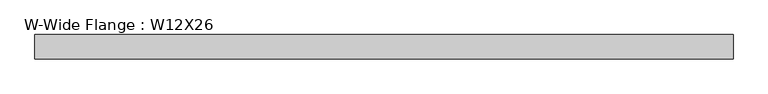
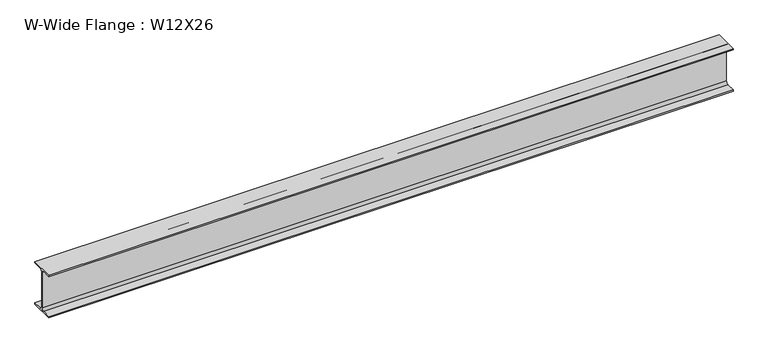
"""IFC4 building model written with IfcOpenShell, lengths in millimetres: beam geometry, W-Wide Flange : W12X26."""

from ifc_helpers import new_model, si_unit, point, frame, frame_2d, origin, place, context, project, spatial, polyline, circle_curve, trimmed, segment, composite_curve, outline, extrude, source, transform, mapped, element, save


def w_wide_flange_w12x26_78e0f775(model_context):
    return source(origin(), model_context, "Body", "SweptSolid", [
        extrude(outline(composite_curve([segment(polyline([(82.423, -145.288), (82.423, -154.94), (-82.423, -154.94), (-82.423, -145.288), (-20.2565, -145.288)]), True, "CONTINUOUS"), segment(trimmed(circle_curve(frame_2d((-20.2565, -127.9525)), 17.3355), [point((-20.2565, -145.288))], [point((-2.921, -127.9525))], True, "CARTESIAN"), True, "CONTINUOUS"), segment(polyline([(-2.921, -127.9525), (-2.921, 127.9525)]), True, "CONTINUOUS"), segment(trimmed(circle_curve(frame_2d((-20.2565, 127.9525)), 17.3355), [point((-2.921, 127.9525))], [point((-20.2565, 145.288))], True, "CARTESIAN"), True, "CONTINUOUS"), segment(polyline([(-20.2565, 145.288), (-82.423, 145.288), (-82.423, 154.94), (82.423, 154.94), (82.423, 145.288), (20.2565, 145.288)]), True, "CONTINUOUS"), segment(trimmed(circle_curve(frame_2d((20.2565, 127.9525)), 17.3355), [point((20.2565, 145.288))], [point((2.921, 127.9525))], True, "CARTESIAN"), True, "CONTINUOUS"), segment(polyline([(2.921, 127.9525), (2.921, -127.9525)]), True, "CONTINUOUS"), segment(trimmed(circle_curve(frame_2d((20.2565, -127.9525)), 17.3355), [point((2.921, -127.9525))], [point((20.2565, -145.288))], True, "CARTESIAN"), True, "CONTINUOUS"), segment(polyline([(20.2565, -145.288), (82.423, -145.288)]), True, "CONTINUOUS")], self_intersect=False)), frame((-2355.85, 0.0, 0.0), z_axis=(1.0, 0.0, 0.0), x_axis=(0.0, 1.0, 0.0)), (0.0, 0.0, 1.0), 4711.7),
    ])


if __name__ == "__main__":
    model = new_model("IFC4")
    model_context = context("Model", 3, world=origin())
    ifc_project = project(units=[si_unit("LENGTHUNIT", "METRE", prefix="MILLI")], contexts=[model_context])
    site = spatial("IfcSite", under=ifc_project)
    building = spatial("IfcBuilding", under=site)
    placement = place(None, origin())
    w_wide_flange_w12x26_shape = w_wide_flange_w12x26_78e0f775(model_context)
    element("IfcBeam", 1, ObjectType="W-Wide Flange : W12X26", at=placement, inside=building, context=model_context, shape_type="MappedRepresentation", body=[
        mapped(w_wide_flange_w12x26_shape, transform((0.0, 0.0, 0.0), x_axis=(1.0, 0.0, 0.0), y_axis=(0.0, 1.0, 0.0), z_axis=(0.0, 0.0, 1.0))),
    ])
    save(model, "model.ifc")
